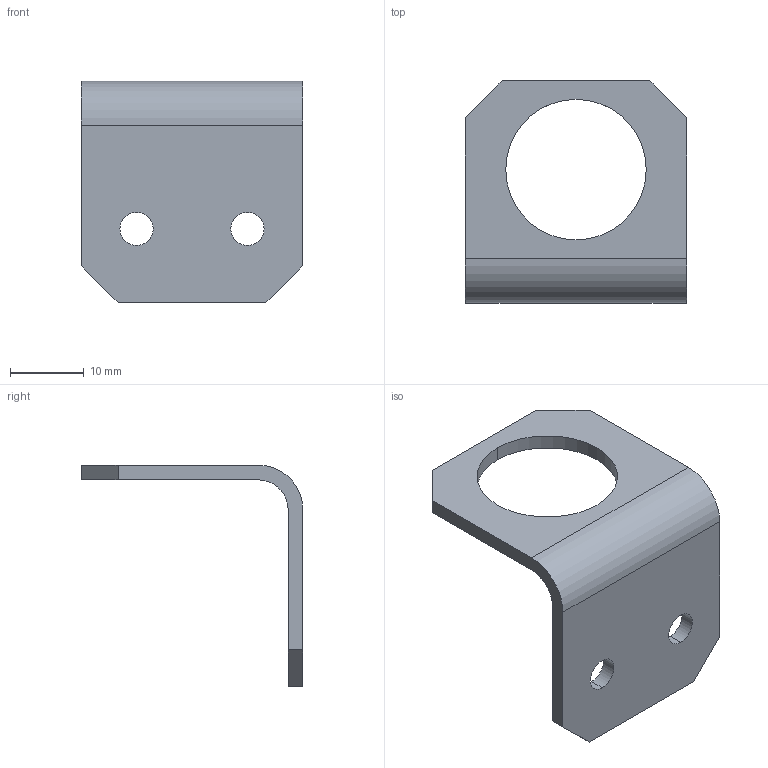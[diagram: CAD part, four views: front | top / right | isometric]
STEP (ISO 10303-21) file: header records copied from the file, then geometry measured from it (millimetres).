
FILE_DESCRIPTION (( 'STEP AP203' ), '1' );
FILE_NAME ('T090003.STEP', '2017-03-22T12:58:13', ( 'Localadmin' ), ( 'Microsoft' ), 'SwSTEP 2.0', 'SolidWorks 2016', '' );
FILE_SCHEMA (( 'CONFIG_CONTROL_DESIGN' ));
Length unit declared in the file: millimetre
Products named in the file (1): T090003
Bounding box: 30 x 30 x 30 mm (x, y, z)
Volume: 2620.6 mm3; surface area: 3116.5 mm2
Topology: 1 solids, 1 shells, 20 faces, 54 edges, 36 vertices
Faces by surface type: plane 12, cylinder 8
Entity records: 723 total; most frequent: DIRECTION 112, CARTESIAN_POINT 111, ORIENTED_EDGE 108, EDGE_CURVE 54, LINE 38, VECTOR 38, AXIS2_PLACEMENT_3D 37, VERTEX_POINT 36
